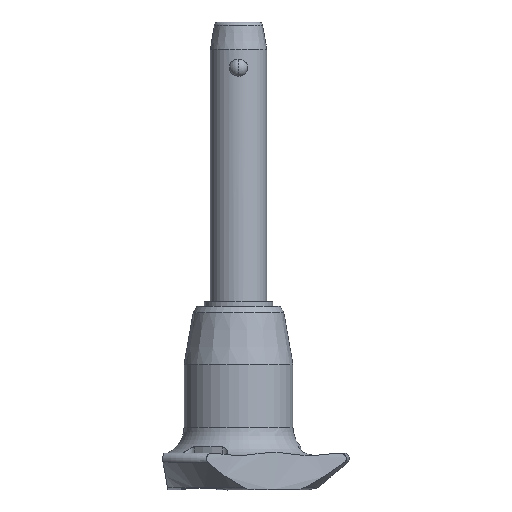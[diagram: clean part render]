
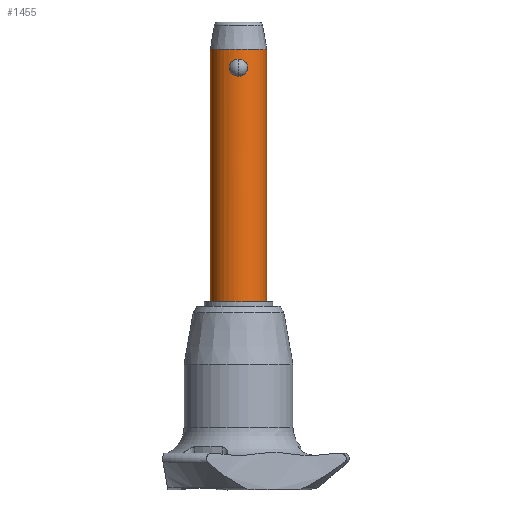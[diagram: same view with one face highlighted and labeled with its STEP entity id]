
A CAD part, front view. The second image highlights one B-rep face of the part: STEP entity #1455.
In plain terms, the highlighted cylindrical face has radius 5 mm (diameter 10 mm), a partial arc.
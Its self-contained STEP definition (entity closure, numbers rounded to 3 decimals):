
#8 = CIRCLE ( 'NONE', #581, 5. ) ;
#25 = CARTESIAN_POINT ( 'NONE',  ( 1.272, -4.838, 2.47 ) ) ;
#46 = ORIENTED_EDGE ( 'NONE', *, *, #1228, .F. ) ;
#62 = CARTESIAN_POINT ( 'NONE',  ( 5., 0., -40. ) ) ;
#91 = CARTESIAN_POINT ( 'NONE',  ( -5., 0., 4.8 ) ) ;
#113 = VERTEX_POINT ( 'NONE', #1602 ) ;
#130 = VERTEX_POINT ( 'NONE', #91 ) ;
#154 = CARTESIAN_POINT ( 'NONE',  ( -0.208, -5., 3.033 ) ) ;
#176 = ORIENTED_EDGE ( 'NONE', *, *, #1676, .T. ) ;
#195 = CARTESIAN_POINT ( 'NONE',  ( -1.56, -4.751, 1.931 ) ) ;
#207 = CARTESIAN_POINT ( 'NONE',  ( -1.272, -4.838, 0.564 ) ) ;
#211 = CARTESIAN_POINT ( 'NONE',  ( 5., 0., 4.8 ) ) ;
#240 = EDGE_CURVE ( 'NONE', #2702, #1315, #2066, .T. ) ;
#252 = CARTESIAN_POINT ( 'NONE',  ( 0., -5., 3.033 ) ) ;
#370 = CARTESIAN_POINT ( 'NONE',  ( -0.791, -4.938, 2.844 ) ) ;
#373 = CARTESIAN_POINT ( 'NONE',  ( -1.604, -4.736, 1.416 ) ) ;
#411 = CARTESIAN_POINT ( 'NONE',  ( -1.551, -4.753, 1.11 ) ) ;
#427 = CARTESIAN_POINT ( 'NONE',  ( 0.7, -4.952, 2.888 ) ) ;
#445 = CARTESIAN_POINT ( 'NONE',  ( 0.412, -4.987, 2.996 ) ) ;
#456 = CARTESIAN_POINT ( 'NONE',  ( 1.56, -4.751, 1.103 ) ) ;
#463 = CARTESIAN_POINT ( 'NONE',  ( 0.205, -5., 0. ) ) ;
#473 = EDGE_LOOP ( 'NONE', ( #1714, #46, #176, #2218 ) ) ;
#485 = AXIS2_PLACEMENT_3D ( 'NONE', #1273, #2577, #1962 ) ;
#491 = VECTOR ( 'NONE', #2304, 1000. ) ;
#504 = ORIENTED_EDGE ( 'NONE', *, *, #1907, .F. ) ;
#581 = AXIS2_PLACEMENT_3D ( 'NONE', #1189, #2278, #712 ) ;
#639 = CARTESIAN_POINT ( 'NONE',  ( 1.604, -4.736, 1.308 ) ) ;
#651 = CARTESIAN_POINT ( 'NONE',  ( 1.551, -4.753, 1.922 ) ) ;
#674 = CARTESIAN_POINT ( 'NONE',  ( 1.047, -4.89, 0.356 ) ) ;
#682 = CARTESIAN_POINT ( 'NONE',  ( -0.699, -4.952, 0.145 ) ) ;
#704 = VECTOR ( 'NONE', #904, 1000. ) ;
#712 = DIRECTION ( 'NONE',  ( 1., 0., 0. ) ) ;
#842 = CARTESIAN_POINT ( 'NONE',  ( -0.412, -4.987, 0.037 ) ) ;
#897 = CARTESIAN_POINT ( 'NONE',  ( -0.966, -4.907, 0.296 ) ) ;
#901 = CARTESIAN_POINT ( 'NONE',  ( 0., -5., 0. ) ) ;
#904 = DIRECTION ( 'NONE',  ( 0., 0., 1. ) ) ;
#965 = EDGE_CURVE ( 'NONE', #1799, #130, #8, .T. ) ;
#994 = CARTESIAN_POINT ( 'NONE',  ( -0.965, -4.907, 2.738 ) ) ;
#997 = EDGE_LOOP ( 'NONE', ( #2463, #504 ) ) ;
#1037 = LINE ( 'NONE', #2492, #491 ) ;
#1067 = CYLINDRICAL_SURFACE ( 'NONE', #485, 5. ) ;
#1080 = CARTESIAN_POINT ( 'NONE',  ( 1.384, -4.805, 0.735 ) ) ;
#1092 = FACE_OUTER_BOUND ( 'NONE', #473, .T. ) ;
#1189 = CARTESIAN_POINT ( 'NONE',  ( 0., 0., 4.8 ) ) ;
#1228 = EDGE_CURVE ( 'NONE', #113, #1438, #2635, .T. ) ;
#1253 = CARTESIAN_POINT ( 'NONE',  ( -1.383, -4.805, 2.299 ) ) ;
#1273 = CARTESIAN_POINT ( 'NONE',  ( 0., 0., -40. ) ) ;
#1283 = CARTESIAN_POINT ( 'NONE',  ( 0.792, -4.938, 2.844 ) ) ;
#1289 = CARTESIAN_POINT ( 'NONE',  ( -1.047, -4.89, 0.357 ) ) ;
#1299 = CARTESIAN_POINT ( 'NONE',  ( 1.604, -4.736, 1.619 ) ) ;
#1313 = CARTESIAN_POINT ( 'NONE',  ( 1.048, -4.889, 2.676 ) ) ;
#1315 = VERTEX_POINT ( 'NONE', #1635 ) ;
#1381 = AXIS2_PLACEMENT_3D ( 'NONE', #1966, #2371, #1497 ) ;
#1437 = CARTESIAN_POINT ( 'NONE',  ( 0., -5., 3.033 ) ) ;
#1438 = VERTEX_POINT ( 'NONE', #1662 ) ;
#1455 = ADVANCED_FACE ( 'NONE', ( #1092, #2381 ), #1067, .T. ) ;
#1478 = B_SPLINE_CURVE_WITH_KNOTS ( 'NONE', 3,
 ( #901, #463, #1747, #2603, #1546, #2402, #674, #2178, #2159, #1080, #2171, #456, #639, #1299, #1724, #651, #1528, #2369, #25, #1313, #1541, #1283, #427, #445, #2147, #252 ),
 .UNSPECIFIED., .F., .F.,
 ( 4, 2, 2, 2, 2, 2, 2, 2, 2, 2, 2, 2, 4 ),
 ( 0.005, 0.006, 0.006, 0.006, 0.006, 0.007, 0.007, 0.008, 0.008, 0.009, 0.009, 0.009, 0.01 ),
 .UNSPECIFIED. ) ;
#1497 = DIRECTION ( 'NONE',  ( 1., 0., 0. ) ) ;
#1528 = CARTESIAN_POINT ( 'NONE',  ( 1.519, -4.764, 2.021 ) ) ;
#1533 = CARTESIAN_POINT ( 'NONE',  ( -0.792, -4.938, 0.19 ) ) ;
#1541 = CARTESIAN_POINT ( 'NONE',  ( 0.966, -4.907, 2.738 ) ) ;
#1546 = CARTESIAN_POINT ( 'NONE',  ( 0.792, -4.938, 0.19 ) ) ;
#1602 = CARTESIAN_POINT ( 'NONE',  ( 5., 0., -40. ) ) ;
#1635 = CARTESIAN_POINT ( 'NONE',  ( 0., -5., 0. ) ) ;
#1653 = CARTESIAN_POINT ( 'NONE',  ( -1.264, -4.838, 2.464 ) ) ;
#1662 = CARTESIAN_POINT ( 'NONE',  ( -5., 0., -40. ) ) ;
#1676 = EDGE_CURVE ( 'NONE', #113, #1799, #1976, .T. ) ;
#1687 = CARTESIAN_POINT ( 'NONE',  ( -1.604, -4.736, 1.724 ) ) ;
#1704 = CARTESIAN_POINT ( 'NONE',  ( 0., -5., 0. ) ) ;
#1714 = ORIENTED_EDGE ( 'NONE', *, *, #2302, .F. ) ;
#1724 = CARTESIAN_POINT ( 'NONE',  ( 1.594, -4.739, 1.721 ) ) ;
#1747 = CARTESIAN_POINT ( 'NONE',  ( 0.412, -4.987, 0.037 ) ) ;
#1799 = VERTEX_POINT ( 'NONE', #211 ) ;
#1907 = EDGE_CURVE ( 'NONE', #1315, #2702, #1478, .T. ) ;
#1962 = DIRECTION ( 'NONE',  ( 1., 0., 0. ) ) ;
#1966 = CARTESIAN_POINT ( 'NONE',  ( 0., 0., -40. ) ) ;
#1976 = LINE ( 'NONE', #62, #704 ) ;
#2056 = CARTESIAN_POINT ( 'NONE',  ( -1.519, -4.764, 1.013 ) ) ;
#2066 = B_SPLINE_CURVE_WITH_KNOTS ( 'NONE', 3,
 ( #2072, #154, #2713, #2297, #370, #994, #2746, #2283, #1653, #1253, #2312, #195, #1687, #373, #2546, #411, #2056, #2399, #207, #1289, #897, #1533, #682, #842, #2388, #1704 ),
 .UNSPECIFIED., .F., .F.,
 ( 4, 2, 2, 2, 2, 2, 2, 2, 2, 2, 2, 2, 4 ),
 ( 0., 0.001, 0.001, 0.001, 0.002, 0.002, 0.002, 0.003, 0.003, 0.004, 0.004, 0.004, 0.005 ),
 .UNSPECIFIED. ) ;
#2072 = CARTESIAN_POINT ( 'NONE',  ( 0., -5., 3.033 ) ) ;
#2147 = CARTESIAN_POINT ( 'NONE',  ( 0.208, -5., 3.033 ) ) ;
#2159 = CARTESIAN_POINT ( 'NONE',  ( 1.265, -4.838, 0.57 ) ) ;
#2171 = CARTESIAN_POINT ( 'NONE',  ( 1.434, -4.79, 0.822 ) ) ;
#2178 = CARTESIAN_POINT ( 'NONE',  ( 1.196, -4.855, 0.493 ) ) ;
#2218 = ORIENTED_EDGE ( 'NONE', *, *, #965, .T. ) ;
#2278 = DIRECTION ( 'NONE',  ( 0., 0., -1. ) ) ;
#2283 = CARTESIAN_POINT ( 'NONE',  ( -1.197, -4.855, 2.539 ) ) ;
#2297 = CARTESIAN_POINT ( 'NONE',  ( -0.7, -4.952, 2.888 ) ) ;
#2302 = EDGE_CURVE ( 'NONE', #1438, #130, #1037, .T. ) ;
#2304 = DIRECTION ( 'NONE',  ( 0., 0., 1. ) ) ;
#2312 = CARTESIAN_POINT ( 'NONE',  ( -1.435, -4.79, 2.209 ) ) ;
#2369 = CARTESIAN_POINT ( 'NONE',  ( 1.395, -4.802, 2.301 ) ) ;
#2371 = DIRECTION ( 'NONE',  ( 0., 0., -1. ) ) ;
#2381 = FACE_BOUND ( 'NONE', #997, .T. ) ;
#2388 = CARTESIAN_POINT ( 'NONE',  ( -0.205, -5., 0. ) ) ;
#2399 = CARTESIAN_POINT ( 'NONE',  ( -1.394, -4.802, 0.731 ) ) ;
#2402 = CARTESIAN_POINT ( 'NONE',  ( 0.966, -4.907, 0.296 ) ) ;
#2463 = ORIENTED_EDGE ( 'NONE', *, *, #240, .F. ) ;
#2492 = CARTESIAN_POINT ( 'NONE',  ( -5., 0., -40. ) ) ;
#2546 = CARTESIAN_POINT ( 'NONE',  ( -1.594, -4.739, 1.312 ) ) ;
#2577 = DIRECTION ( 'NONE',  ( 0., 0., 1. ) ) ;
#2603 = CARTESIAN_POINT ( 'NONE',  ( 0.699, -4.952, 0.144 ) ) ;
#2635 = CIRCLE ( 'NONE', #1381, 5. ) ;
#2702 = VERTEX_POINT ( 'NONE', #1437 ) ;
#2713 = CARTESIAN_POINT ( 'NONE',  ( -0.412, -4.987, 2.997 ) ) ;
#2746 = CARTESIAN_POINT ( 'NONE',  ( -1.047, -4.89, 2.676 ) ) ;
